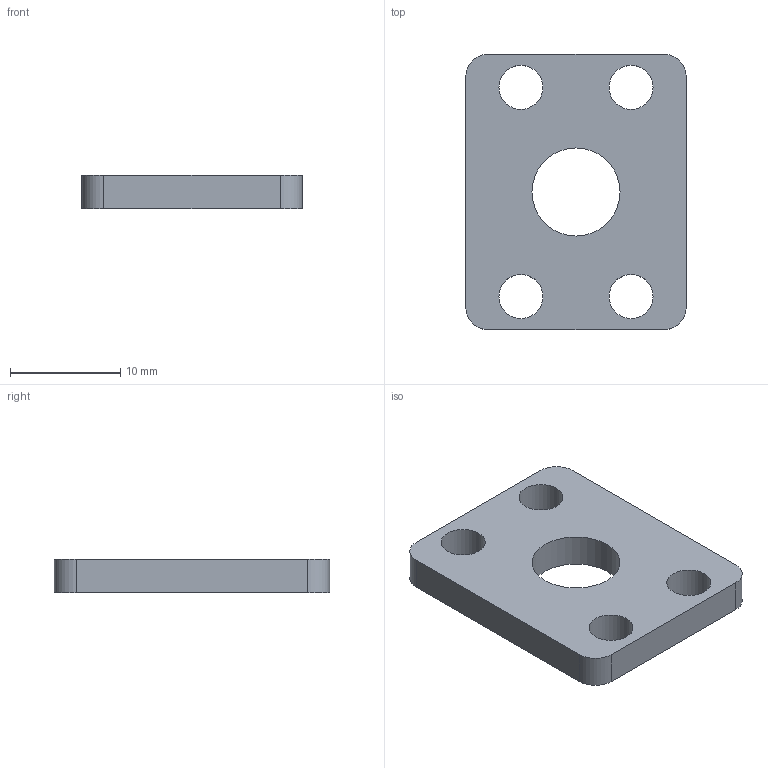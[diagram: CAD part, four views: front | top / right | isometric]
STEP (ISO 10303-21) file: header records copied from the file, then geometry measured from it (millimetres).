
FILE_DESCRIPTION(/* description */ ('Unknown'),/* implementation_level */ '2;1');
FILE_NAME(/* name */ 'PSM06',/* time_stamp */ '2025-10-07T10:37:55+02:00',/* author */ ('Unknown'),/* organization */ ('Unknown'),/* preprocessor_version */ 'ST-DEVELOPER v19.4',/* originating_system */ 'Solid Edge',/* authorisation */ 'Unknown');
FILE_SCHEMA (('AUTOMOTIVE_DESIGN {1 0 10303 214 3 1 1}'));
Length unit declared in the file: millimetre
Products named in the file (1): PSM06
Bounding box: 20 x 25 x 3 mm (x, y, z)
Volume: 1188.1 mm3; surface area: 1278 mm2
Topology: 1 solids, 1 shells, 15 faces, 39 edges, 26 vertices
Faces by surface type: cylinder 9, plane 6
Full cylindrical faces by diameter (mm): 4 x4, 8 x1
Entity records: 496 total; most frequent: DIRECTION 84, CARTESIAN_POINT 76, ORIENTED_EDGE 68, EDGE_CURVE 34, AXIS2_PLACEMENT_3D 34, EDGE_LOOP 30, FACE_BOUND 30, VERTEX_POINT 26
